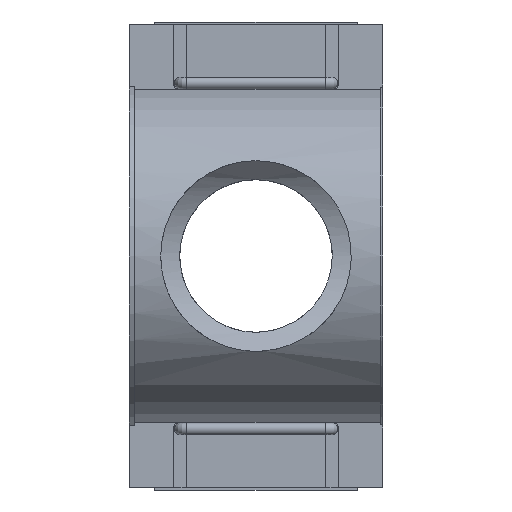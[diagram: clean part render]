
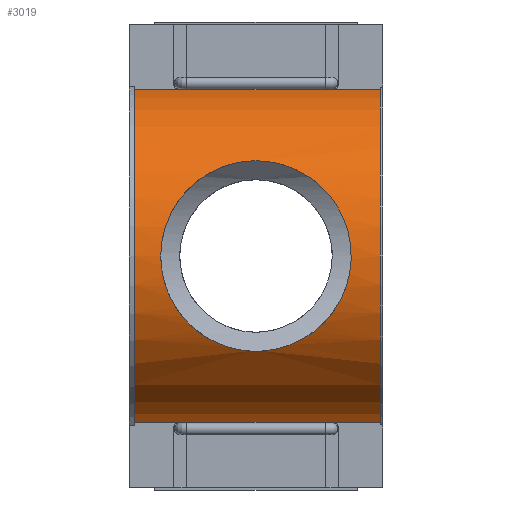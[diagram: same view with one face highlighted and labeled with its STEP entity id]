
A CAD part, front view. The second image highlights one B-rep face of the part: STEP entity #3019.
In plain terms, the highlighted cylindrical face has radius 78.938 mm (diameter 157.876 mm), a partial arc.
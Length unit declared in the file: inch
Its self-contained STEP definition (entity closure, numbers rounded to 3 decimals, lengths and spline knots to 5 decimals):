
#37=FACE_BOUND('',#485,.T.);
#176=CIRCLE('',#3200,3.1078);
#179=CIRCLE('',#3205,3.1078);
#308=FACE_OUTER_BOUND('',#484,.T.);
#484=EDGE_LOOP('',(#2163,#2164,#2165,#2166,#2167,#2168,#2169,#2170));
#485=EDGE_LOOP('',(#2171,#2172));
#690=LINE('',#4595,#991);
#691=LINE('',#4597,#992);
#707=LINE('',#4633,#1008);
#708=LINE('',#4636,#1009);
#709=LINE('',#4638,#1010);
#710=LINE('',#4639,#1011);
#991=VECTOR('',#3572,0.3937);
#992=VECTOR('',#3575,0.3937);
#1008=VECTOR('',#3607,0.3937);
#1009=VECTOR('',#3610,0.3937);
#1010=VECTOR('',#3611,0.3937);
#1011=VECTOR('',#3612,0.3937);
#1260=B_SPLINE_CURVE_WITH_KNOTS('',3,(#4434,#4435,#4436,#4437,#4438,#4439,
#4440,#4441,#4442,#4443,#4444,#4445,#4446,#4447,#4448,#4449,#4450,#4451,
#4452,#4453,#4454,#4455,#4456,#4457,#4458,#4459,#4460,#4461,#4462,#4463,
#4464,#4465,#4466,#4467,#4468,#4469,#4470,#4471,#4472,#4473,#4474,#4475,
#4476,#4477,#4478,#4479,#4480,#4481,#4482,#4483),.UNSPECIFIED.,.F.,.F.,
(4,2,2,2,2,2,2,2,2,2,2,2,2,2,2,2,2,2,2,2,2,2,2,2,4),(0.,0.85981,
1.71962,2.57944,3.43925,4.29502,5.1508,
6.00658,6.86235,7.71813,8.5739,9.42968,
10.28545,11.14526,12.00508,12.86489,13.7247,
14.58451,15.44433,16.30414,17.16395,18.01973,
18.8755,19.73128,20.58705),.UNSPECIFIED.);
#1261=B_SPLINE_CURVE_WITH_KNOTS('',3,(#4484,#4485,#4486,#4487,#4488,#4489,
#4490,#4491,#4492,#4493,#4494,#4495,#4496,#4497,#4498,#4499,#4500,#4501),
 .UNSPECIFIED.,.F.,.F.,(4,2,2,2,2,2,2,2,4),(20.58705,21.44283,
22.2986,23.15438,24.01015,24.86997,25.72978,
26.58959,27.4494),.UNSPECIFIED.);
#1296=VERTEX_POINT('',#4431);
#1297=VERTEX_POINT('',#4433);
#1302=VERTEX_POINT('',#4512);
#1303=VERTEX_POINT('',#4513);
#1308=VERTEX_POINT('',#4527);
#1309=VERTEX_POINT('',#4528);
#1318=VERTEX_POINT('',#4551);
#1327=VERTEX_POINT('',#4575);
#1344=VERTEX_POINT('',#4635);
#1345=VERTEX_POINT('',#4637);
#1595=EDGE_CURVE('',#1297,#1296,#1260,.T.);
#1596=EDGE_CURVE('',#1296,#1297,#1261,.T.);
#1601=EDGE_CURVE('',#1302,#1303,#176,.T.);
#1608=EDGE_CURVE('',#1308,#1309,#179,.T.);
#1642=EDGE_CURVE('',#1327,#1309,#690,.T.);
#1643=EDGE_CURVE('',#1302,#1318,#691,.T.);
#1661=EDGE_CURVE('',#1318,#1327,#707,.T.);
#1662=EDGE_CURVE('',#1303,#1344,#708,.T.);
#1663=EDGE_CURVE('',#1344,#1345,#709,.T.);
#1664=EDGE_CURVE('',#1345,#1308,#710,.T.);
#2163=ORIENTED_EDGE('',*,*,#1601,.T.);
#2164=ORIENTED_EDGE('',*,*,#1662,.T.);
#2165=ORIENTED_EDGE('',*,*,#1663,.T.);
#2166=ORIENTED_EDGE('',*,*,#1664,.T.);
#2167=ORIENTED_EDGE('',*,*,#1608,.T.);
#2168=ORIENTED_EDGE('',*,*,#1642,.F.);
#2169=ORIENTED_EDGE('',*,*,#1661,.F.);
#2170=ORIENTED_EDGE('',*,*,#1643,.F.);
#2171=ORIENTED_EDGE('',*,*,#1595,.T.);
#2172=ORIENTED_EDGE('',*,*,#1596,.T.);
#2957=CYLINDRICAL_SURFACE('',#3231,3.1078);
#3019=ADVANCED_FACE('',(#308,#37),#2957,.T.);
#3200=AXIS2_PLACEMENT_3D('',#4514,#3497,#3498);
#3205=AXIS2_PLACEMENT_3D('',#4529,#3511,#3512);
#3231=AXIS2_PLACEMENT_3D('',#4634,#3608,#3609);
#3497=DIRECTION('center_axis',(-1.,0.,0.));
#3498=DIRECTION('ref_axis',(0.,-0.192,0.981));
#3511=DIRECTION('center_axis',(1.,0.,0.));
#3512=DIRECTION('ref_axis',(0.,-0.192,0.981));
#3572=DIRECTION('',(-1.,0.,0.));
#3575=DIRECTION('',(-1.,0.,0.));
#3607=DIRECTION('',(-1.,0.,0.));
#3608=DIRECTION('center_axis',(-1.,0.,0.));
#3609=DIRECTION('ref_axis',(0.,-0.192,0.981));
#3610=DIRECTION('',(-1.,0.,0.));
#3611=DIRECTION('',(-1.,0.,0.));
#3612=DIRECTION('',(-1.,0.,0.));
#4431=CARTESIAN_POINT('',(-4.07106,-3.1078,0.));
#4433=CARTESIAN_POINT('',(-2.325,-2.57093,1.74606));
#4434=CARTESIAN_POINT('Ctrl Pts',(-2.325,-2.57093,1.74606));
#4435=CARTESIAN_POINT('Ctrl Pts',(-2.21216,-2.57093,1.74606));
#4436=CARTESIAN_POINT('Ctrl Pts',(-2.09665,-2.57858,1.73496));
#4437=CARTESIAN_POINT('Ctrl Pts',(-1.86889,-2.60863,1.68943));
#4438=CARTESIAN_POINT('Ctrl Pts',(-1.75662,-2.63097,1.65503));
#4439=CARTESIAN_POINT('Ctrl Pts',(-1.54268,-2.68532,1.5653));
#4440=CARTESIAN_POINT('Ctrl Pts',(-1.44079,-2.71731,1.5099));
#4441=CARTESIAN_POINT('Ctrl Pts',(-1.25277,-2.78417,1.38273));
#4442=CARTESIAN_POINT('Ctrl Pts',(-1.16664,-2.81899,1.31095));
#4443=CARTESIAN_POINT('Ctrl Pts',(-1.01441,-2.88489,1.15872));
#4444=CARTESIAN_POINT('Ctrl Pts',(-0.94268,-2.91845,
1.07277));
#4445=CARTESIAN_POINT('Ctrl Pts',(-0.81538,-2.98086,0.88469));
#4446=CARTESIAN_POINT('Ctrl Pts',(-0.75979,-3.00966,0.78255));
#4447=CARTESIAN_POINT('Ctrl Pts',(-0.66985,-3.05741,
0.56809));
#4448=CARTESIAN_POINT('Ctrl Pts',(-0.63541,-3.07636,
0.45555));
#4449=CARTESIAN_POINT('Ctrl Pts',(-0.58995,-3.10156,
0.22766));
#4450=CARTESIAN_POINT('Ctrl Pts',(-0.57894,-3.1078,
0.11231));
#4451=CARTESIAN_POINT('Ctrl Pts',(-0.57894,-3.1078,
-0.11231));
#4452=CARTESIAN_POINT('Ctrl Pts',(-0.58995,-3.10156,
-0.22766));
#4453=CARTESIAN_POINT('Ctrl Pts',(-0.63541,-3.07636,
-0.45555));
#4454=CARTESIAN_POINT('Ctrl Pts',(-0.66985,-3.05741,
-0.56809));
#4455=CARTESIAN_POINT('Ctrl Pts',(-0.75979,-3.00966,-0.78255));
#4456=CARTESIAN_POINT('Ctrl Pts',(-0.81538,-2.98086,-0.88469));
#4457=CARTESIAN_POINT('Ctrl Pts',(-0.94268,-2.91845,
-1.07277));
#4458=CARTESIAN_POINT('Ctrl Pts',(-1.01441,-2.88489,-1.15872));
#4459=CARTESIAN_POINT('Ctrl Pts',(-1.16664,-2.81899,-1.31095));
#4460=CARTESIAN_POINT('Ctrl Pts',(-1.25277,-2.78417,-1.38273));
#4461=CARTESIAN_POINT('Ctrl Pts',(-1.44079,-2.71731,-1.5099));
#4462=CARTESIAN_POINT('Ctrl Pts',(-1.54268,-2.68532,-1.5653));
#4463=CARTESIAN_POINT('Ctrl Pts',(-1.75662,-2.63097,-1.65503));
#4464=CARTESIAN_POINT('Ctrl Pts',(-1.86889,-2.60863,-1.68943));
#4465=CARTESIAN_POINT('Ctrl Pts',(-2.09665,-2.57858,-1.73496));
#4466=CARTESIAN_POINT('Ctrl Pts',(-2.21216,-2.57093,-1.74606));
#4467=CARTESIAN_POINT('Ctrl Pts',(-2.43784,-2.57093,-1.74606));
#4468=CARTESIAN_POINT('Ctrl Pts',(-2.55335,-2.57858,-1.73496));
#4469=CARTESIAN_POINT('Ctrl Pts',(-2.78111,-2.60863,-1.68943));
#4470=CARTESIAN_POINT('Ctrl Pts',(-2.89338,-2.63097,-1.65503));
#4471=CARTESIAN_POINT('Ctrl Pts',(-3.10732,-2.68532,-1.5653));
#4472=CARTESIAN_POINT('Ctrl Pts',(-3.20921,-2.71731,-1.5099));
#4473=CARTESIAN_POINT('Ctrl Pts',(-3.39723,-2.78417,-1.38273));
#4474=CARTESIAN_POINT('Ctrl Pts',(-3.48336,-2.81899,-1.31095));
#4475=CARTESIAN_POINT('Ctrl Pts',(-3.63559,-2.88489,-1.15872));
#4476=CARTESIAN_POINT('Ctrl Pts',(-3.70732,-2.91845,-1.07277));
#4477=CARTESIAN_POINT('Ctrl Pts',(-3.83462,-2.98086,-0.88469));
#4478=CARTESIAN_POINT('Ctrl Pts',(-3.89021,-3.00966,-0.78255));
#4479=CARTESIAN_POINT('Ctrl Pts',(-3.98015,-3.05741,-0.56809));
#4480=CARTESIAN_POINT('Ctrl Pts',(-4.01459,-3.07636,-0.45555));
#4481=CARTESIAN_POINT('Ctrl Pts',(-4.06005,-3.10156,-0.22766));
#4482=CARTESIAN_POINT('Ctrl Pts',(-4.07106,-3.1078,-0.11231));
#4483=CARTESIAN_POINT('Ctrl Pts',(-4.07106,-3.1078,0.));
#4484=CARTESIAN_POINT('Ctrl Pts',(-4.07106,-3.1078,0.));
#4485=CARTESIAN_POINT('Ctrl Pts',(-4.07106,-3.1078,0.11231));
#4486=CARTESIAN_POINT('Ctrl Pts',(-4.06005,-3.10156,0.22766));
#4487=CARTESIAN_POINT('Ctrl Pts',(-4.01459,-3.07636,0.45555));
#4488=CARTESIAN_POINT('Ctrl Pts',(-3.98015,-3.05741,0.56809));
#4489=CARTESIAN_POINT('Ctrl Pts',(-3.89021,-3.00966,0.78255));
#4490=CARTESIAN_POINT('Ctrl Pts',(-3.83462,-2.98086,0.88469));
#4491=CARTESIAN_POINT('Ctrl Pts',(-3.70732,-2.91845,1.07277));
#4492=CARTESIAN_POINT('Ctrl Pts',(-3.63559,-2.88489,1.15872));
#4493=CARTESIAN_POINT('Ctrl Pts',(-3.48336,-2.81899,1.31095));
#4494=CARTESIAN_POINT('Ctrl Pts',(-3.39723,-2.78417,1.38273));
#4495=CARTESIAN_POINT('Ctrl Pts',(-3.20921,-2.71731,1.5099));
#4496=CARTESIAN_POINT('Ctrl Pts',(-3.10732,-2.68532,1.5653));
#4497=CARTESIAN_POINT('Ctrl Pts',(-2.89338,-2.63097,1.65503));
#4498=CARTESIAN_POINT('Ctrl Pts',(-2.78111,-2.60863,1.68943));
#4499=CARTESIAN_POINT('Ctrl Pts',(-2.55335,-2.57858,1.73496));
#4500=CARTESIAN_POINT('Ctrl Pts',(-2.43784,-2.57093,1.74606));
#4501=CARTESIAN_POINT('Ctrl Pts',(-2.325,-2.57093,1.74606));
#4512=CARTESIAN_POINT('',(-0.0465,-0.59695,-3.04993));
#4513=CARTESIAN_POINT('',(-0.0465,-0.59695,3.04993));
#4514=CARTESIAN_POINT('Origin',(-0.0465,0.,0.));
#4527=CARTESIAN_POINT('',(-4.557,-0.59695,3.04993));
#4528=CARTESIAN_POINT('',(-4.557,-0.59695,-3.04993));
#4529=CARTESIAN_POINT('Origin',(-4.557,0.,0.));
#4551=CARTESIAN_POINT('',(-0.93,-0.59695,-3.04993));
#4575=CARTESIAN_POINT('',(-3.72,-0.59695,-3.04993));
#4595=CARTESIAN_POINT('',(0.,-0.59695,-3.04993));
#4597=CARTESIAN_POINT('',(0.,-0.59695,-3.04993));
#4633=CARTESIAN_POINT('',(0.,-0.59695,-3.04993));
#4634=CARTESIAN_POINT('Origin',(0.,0.,0.));
#4635=CARTESIAN_POINT('',(-0.93,-0.59695,3.04993));
#4636=CARTESIAN_POINT('',(0.,-0.59695,3.04993));
#4637=CARTESIAN_POINT('',(-3.72,-0.59695,3.04993));
#4638=CARTESIAN_POINT('',(0.,-0.59695,3.04993));
#4639=CARTESIAN_POINT('',(0.,-0.59695,3.04993));
